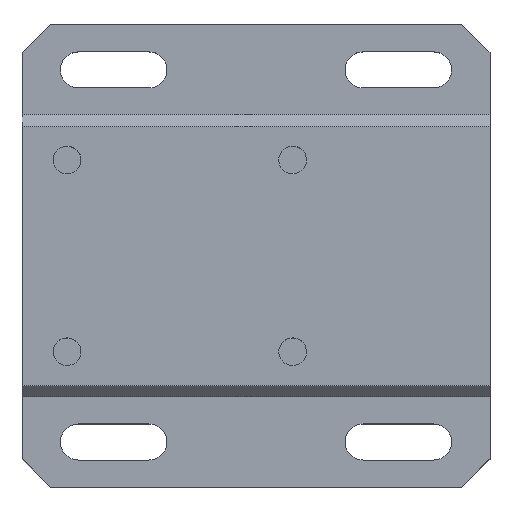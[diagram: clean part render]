
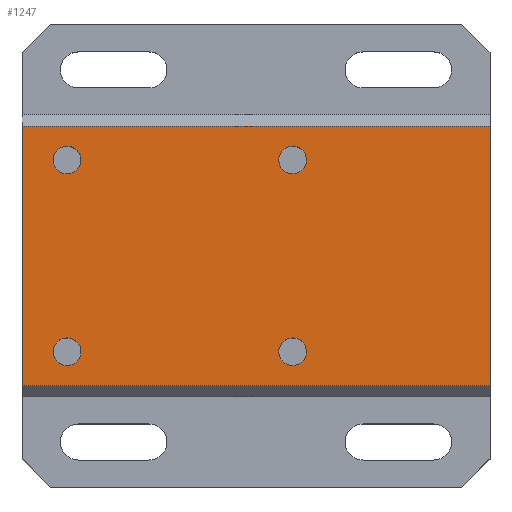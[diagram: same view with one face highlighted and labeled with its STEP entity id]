
A CAD part, top view. The second image highlights one B-rep face of the part: STEP entity #1247.
In plain terms, the highlighted planar face has unit normal (0, 0, 1).
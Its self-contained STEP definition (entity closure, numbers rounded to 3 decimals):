
#549=AXIS2_PLACEMENT_3D('Circle Axis2P3D',#547,#548,$) ;
#575=AXIS2_PLACEMENT_3D('Circle Axis2P3D',#573,#574,$) ;
#611=AXIS2_PLACEMENT_3D('Circle Axis2P3D',#609,#610,$) ;
#637=AXIS2_PLACEMENT_3D('Circle Axis2P3D',#635,#636,$) ;
#673=AXIS2_PLACEMENT_3D('Circle Axis2P3D',#671,#672,$) ;
#699=AXIS2_PLACEMENT_3D('Circle Axis2P3D',#697,#698,$) ;
#735=AXIS2_PLACEMENT_3D('Circle Axis2P3D',#733,#734,$) ;
#761=AXIS2_PLACEMENT_3D('Circle Axis2P3D',#759,#760,$) ;
#1204=AXIS2_PLACEMENT_3D('Plane Axis2P3D',#1201,#1202,#1203) ;
#547=CARTESIAN_POINT('Axis2P3D Location',(-33.5,17.,17.5)) ;
#551=CARTESIAN_POINT('Vertex',(-31.342,15.821,17.5)) ;
#553=CARTESIAN_POINT('Vertex',(-35.658,18.179,17.5)) ;
#573=CARTESIAN_POINT('Axis2P3D Location',(-33.5,17.,17.5)) ;
#609=CARTESIAN_POINT('Axis2P3D Location',(6.5,-17.,17.5)) ;
#613=CARTESIAN_POINT('Vertex',(4.342,-15.821,17.5)) ;
#615=CARTESIAN_POINT('Vertex',(8.658,-18.179,17.5)) ;
#635=CARTESIAN_POINT('Axis2P3D Location',(6.5,-17.,17.5)) ;
#671=CARTESIAN_POINT('Axis2P3D Location',(-33.5,-17.,17.5)) ;
#675=CARTESIAN_POINT('Vertex',(-35.658,-15.821,17.5)) ;
#677=CARTESIAN_POINT('Vertex',(-31.342,-18.179,17.5)) ;
#697=CARTESIAN_POINT('Axis2P3D Location',(-33.5,-17.,17.5)) ;
#733=CARTESIAN_POINT('Axis2P3D Location',(6.5,17.,17.5)) ;
#737=CARTESIAN_POINT('Vertex',(4.342,18.179,17.5)) ;
#739=CARTESIAN_POINT('Vertex',(8.658,15.821,17.5)) ;
#759=CARTESIAN_POINT('Axis2P3D Location',(6.5,17.,17.5)) ;
#1144=CARTESIAN_POINT('Line Origine',(0.,-23.,17.5)) ;
#1148=CARTESIAN_POINT('Vertex',(-41.5,-23.,17.5)) ;
#1150=CARTESIAN_POINT('Vertex',(41.5,-23.,17.5)) ;
#1201=CARTESIAN_POINT('Axis2P3D Location',(0.,0.,17.5)) ;
#1206=CARTESIAN_POINT('Line Origine',(-41.5,0.,17.5)) ;
#1210=CARTESIAN_POINT('Vertex',(-41.5,23.,17.5)) ;
#1213=CARTESIAN_POINT('Line Origine',(41.5,0.,17.5)) ;
#1217=CARTESIAN_POINT('Vertex',(41.5,23.,17.5)) ;
#1220=CARTESIAN_POINT('Line Origine',(0.,23.,17.5)) ;
#548=DIRECTION('Axis2P3D Direction',(0.,-0.,-1.)) ;
#574=DIRECTION('Axis2P3D Direction',(0.,-0.,-1.)) ;
#610=DIRECTION('Axis2P3D Direction',(0.,-0.,-1.)) ;
#636=DIRECTION('Axis2P3D Direction',(0.,-0.,-1.)) ;
#672=DIRECTION('Axis2P3D Direction',(0.,-0.,-1.)) ;
#698=DIRECTION('Axis2P3D Direction',(0.,-0.,-1.)) ;
#734=DIRECTION('Axis2P3D Direction',(0.,-0.,-1.)) ;
#760=DIRECTION('Axis2P3D Direction',(0.,-0.,-1.)) ;
#1145=DIRECTION('Vector Direction',(-1.,0.,0.)) ;
#1202=DIRECTION('Axis2P3D Direction',(0.,0.,1.)) ;
#1203=DIRECTION('Axis2P3D XDirection',(1.,0.,0.)) ;
#1207=DIRECTION('Vector Direction',(0.,-1.,0.)) ;
#1214=DIRECTION('Vector Direction',(0.,1.,0.)) ;
#1221=DIRECTION('Vector Direction',(1.,0.,0.)) ;
#1146=VECTOR('Line Direction',#1145,1.) ;
#1208=VECTOR('Line Direction',#1207,1.) ;
#1215=VECTOR('Line Direction',#1214,1.) ;
#1222=VECTOR('Line Direction',#1221,1.) ;
#1226=ORIENTED_EDGE('',*,*,#1212,.T.) ;
#1227=ORIENTED_EDGE('',*,*,#1152,.T.) ;
#1228=ORIENTED_EDGE('',*,*,#1219,.T.) ;
#1229=ORIENTED_EDGE('',*,*,#1224,.T.) ;
#1232=ORIENTED_EDGE('',*,*,#577,.F.) ;
#1233=ORIENTED_EDGE('',*,*,#555,.F.) ;
#1236=ORIENTED_EDGE('',*,*,#763,.F.) ;
#1237=ORIENTED_EDGE('',*,*,#741,.F.) ;
#1240=ORIENTED_EDGE('',*,*,#701,.F.) ;
#1241=ORIENTED_EDGE('',*,*,#679,.F.) ;
#1244=ORIENTED_EDGE('',*,*,#639,.F.) ;
#1245=ORIENTED_EDGE('',*,*,#617,.F.) ;
#1234=FACE_BOUND('',#1231,.T.) ;
#1238=FACE_BOUND('',#1235,.T.) ;
#1242=FACE_BOUND('',#1239,.T.) ;
#1246=FACE_BOUND('',#1243,.T.) ;
#1247=ADVANCED_FACE('\X2\96F64EF651E04F554F53\X0\',(#1230,#1234,#1238,#1242,#1246),#1205,.T.) ;
#550=CIRCLE('generated circle',#549,2.459) ;
#576=CIRCLE('generated circle',#575,2.459) ;
#612=CIRCLE('generated circle',#611,2.459) ;
#638=CIRCLE('generated circle',#637,2.459) ;
#674=CIRCLE('generated circle',#673,2.459) ;
#700=CIRCLE('generated circle',#699,2.459) ;
#736=CIRCLE('generated circle',#735,2.459) ;
#762=CIRCLE('generated circle',#761,2.459) ;
#555=EDGE_CURVE('',#552,#554,#550,.F.) ;
#577=EDGE_CURVE('',#554,#552,#576,.F.) ;
#617=EDGE_CURVE('',#614,#616,#612,.F.) ;
#639=EDGE_CURVE('',#616,#614,#638,.F.) ;
#679=EDGE_CURVE('',#676,#678,#674,.F.) ;
#701=EDGE_CURVE('',#678,#676,#700,.F.) ;
#741=EDGE_CURVE('',#738,#740,#736,.F.) ;
#763=EDGE_CURVE('',#740,#738,#762,.F.) ;
#1152=EDGE_CURVE('',#1149,#1151,#1147,.F.) ;
#1212=EDGE_CURVE('',#1211,#1149,#1209,.T.) ;
#1219=EDGE_CURVE('',#1151,#1218,#1216,.T.) ;
#1224=EDGE_CURVE('',#1218,#1211,#1223,.F.) ;
#1225=EDGE_LOOP('',(#1226,#1227,#1228,#1229)) ;
#1231=EDGE_LOOP('',(#1232,#1233)) ;
#1235=EDGE_LOOP('',(#1236,#1237)) ;
#1239=EDGE_LOOP('',(#1240,#1241)) ;
#1243=EDGE_LOOP('',(#1244,#1245)) ;
#1230=FACE_OUTER_BOUND('',#1225,.T.) ;
#1147=LINE('Line',#1144,#1146) ;
#1209=LINE('Line',#1206,#1208) ;
#1216=LINE('Line',#1213,#1215) ;
#1223=LINE('Line',#1220,#1222) ;
#1205=PLANE('',#1204) ;
#552=VERTEX_POINT('',#551) ;
#554=VERTEX_POINT('',#553) ;
#614=VERTEX_POINT('',#613) ;
#616=VERTEX_POINT('',#615) ;
#676=VERTEX_POINT('',#675) ;
#678=VERTEX_POINT('',#677) ;
#738=VERTEX_POINT('',#737) ;
#740=VERTEX_POINT('',#739) ;
#1149=VERTEX_POINT('',#1148) ;
#1151=VERTEX_POINT('',#1150) ;
#1211=VERTEX_POINT('',#1210) ;
#1218=VERTEX_POINT('',#1217) ;
